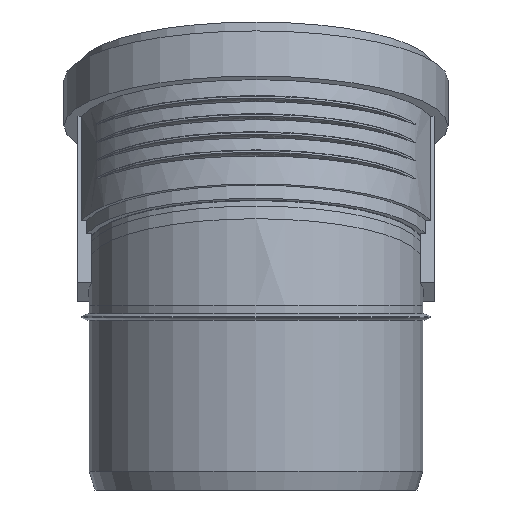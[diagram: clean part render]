
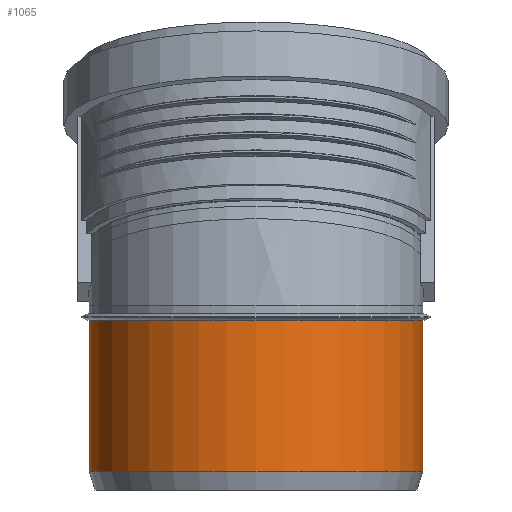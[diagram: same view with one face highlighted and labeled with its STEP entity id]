
A CAD part, left-side view. The second image highlights one B-rep face of the part: STEP entity #1065.
In plain terms, the highlighted cylindrical face has radius 80.125 mm (diameter 160.25 mm), a full revolution.
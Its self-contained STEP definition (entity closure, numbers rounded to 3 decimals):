
#190=CYLINDRICAL_SURFACE($,#1140,80.125);
#209=FACE_BOUND($,#314,.T.);
#252=FACE_OUTER_BOUND($,#313,.T.);
#313=EDGE_LOOP($,(#716));
#314=EDGE_LOOP($,(#717));
#414=CIRCLE($,#1138,80.125);
#416=CIRCLE($,#1141,80.125);
#469=VERTEX_POINT($,#1555);
#471=VERTEX_POINT($,#1560);
#575=EDGE_CURVE($,#469,#469,#414,.T.);
#577=EDGE_CURVE($,#471,#471,#416,.T.);
#716=ORIENTED_EDGE($,*,*,#577,.T.);
#717=ORIENTED_EDGE($,*,*,#575,.F.);
#1065=ADVANCED_FACE($,(#252,#209),#190,.T.);
#1138=AXIS2_PLACEMENT_3D($,#1556,#1267,#1268);
#1140=AXIS2_PLACEMENT_3D($,#1559,#1271,#1272);
#1141=AXIS2_PLACEMENT_3D($,#1561,#1273,#1274);
#1267=DIRECTION('center_axis',(0.,0.,-1.));
#1268=DIRECTION('ref_axis',(-1.,0.,0.));
#1271=DIRECTION('center_axis',(0.,0.,1.));
#1272=DIRECTION('ref_axis',(-1.,0.,0.));
#1273=DIRECTION('center_axis',(0.,0.,-1.));
#1274=DIRECTION('ref_axis',(-1.,0.,0.));
#1555=CARTESIAN_POINT('',(80.125,0.,9.));
#1556=CARTESIAN_POINT('Origin',(0.,0.,9.));
#1559=CARTESIAN_POINT('Origin',(0.,0.,0.));
#1560=CARTESIAN_POINT('',(-80.125,0.,81.6));
#1561=CARTESIAN_POINT('Origin',(0.,0.,81.6));
